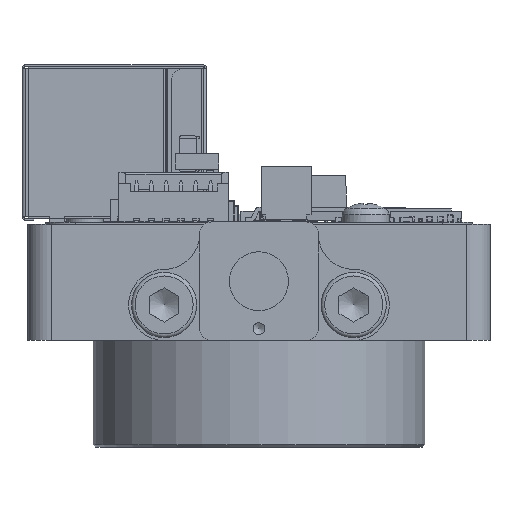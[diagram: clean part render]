
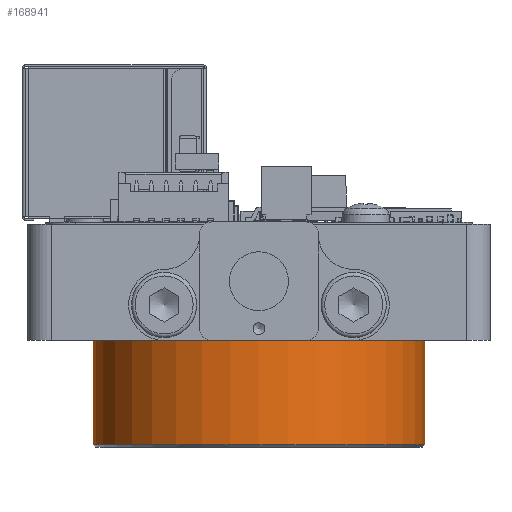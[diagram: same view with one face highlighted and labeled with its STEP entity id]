
A CAD part, front view. The second image highlights one B-rep face of the part: STEP entity #168941.
In plain terms, the highlighted cylindrical face has radius 14 mm (diameter 28 mm), a full revolution.
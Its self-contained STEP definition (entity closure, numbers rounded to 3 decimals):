
#2931=CYLINDRICAL_SURFACE('',#180159,14.);
#7297=CIRCLE('',#180152,14.);
#7301=CIRCLE('',#180160,14.);
#7302=CIRCLE('',#180161,14.);
#16868=FACE_OUTER_BOUND('',#27313,.T.);
#27313=EDGE_LOOP('',(#114812,#114813,#114814,#114815,#114816));
#40880=LINE('',#260031,#56321);
#56321=VECTOR('',#205696,14.);
#70553=VERTEX_POINT('',#260013);
#70557=VERTEX_POINT('',#260027);
#70558=VERTEX_POINT('',#260028);
#85891=EDGE_CURVE('',#70553,#70553,#7297,.T.);
#85897=EDGE_CURVE('',#70557,#70558,#7301,.T.);
#85898=EDGE_CURVE('',#70558,#70557,#7302,.T.);
#85899=EDGE_CURVE('',#70558,#70553,#40880,.T.);
#114812=ORIENTED_EDGE('',*,*,#85897,.F.);
#114813=ORIENTED_EDGE('',*,*,#85898,.F.);
#114814=ORIENTED_EDGE('',*,*,#85899,.T.);
#114815=ORIENTED_EDGE('',*,*,#85891,.F.);
#114816=ORIENTED_EDGE('',*,*,#85899,.F.);
#168941=ADVANCED_FACE('',(#16868),#2931,.T.);
#180152=AXIS2_PLACEMENT_3D('',#260014,#205674,#205675);
#180159=AXIS2_PLACEMENT_3D('',#260026,#205690,#205691);
#180160=AXIS2_PLACEMENT_3D('',#260029,#205692,#205693);
#180161=AXIS2_PLACEMENT_3D('',#260030,#205694,#205695);
#205674=DIRECTION('center_axis',(0.,0.,1.));
#205675=DIRECTION('ref_axis',(-1.,0.,0.));
#205690=DIRECTION('center_axis',(0.,0.,-1.));
#205691=DIRECTION('ref_axis',(-1.,0.,0.));
#205692=DIRECTION('center_axis',(0.,0.,-1.));
#205693=DIRECTION('ref_axis',(1.,0.,0.));
#205694=DIRECTION('center_axis',(0.,0.,-1.));
#205695=DIRECTION('ref_axis',(1.,0.,0.));
#205696=DIRECTION('',(0.,0.,1.));
#260013=CARTESIAN_POINT('',(14.,0.,0.));
#260014=CARTESIAN_POINT('Origin',(0.,0.,0.));
#260026=CARTESIAN_POINT('Origin',(0.,0.,0.));
#260027=CARTESIAN_POINT('',(-14.,0.,-8.8));
#260028=CARTESIAN_POINT('',(14.,0.,-8.8));
#260029=CARTESIAN_POINT('Origin',(0.,0.,-8.8));
#260030=CARTESIAN_POINT('Origin',(0.,0.,-8.8));
#260031=CARTESIAN_POINT('',(14.,0.,0.));
